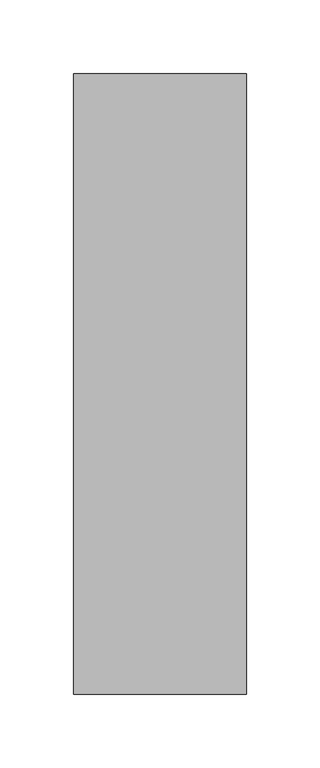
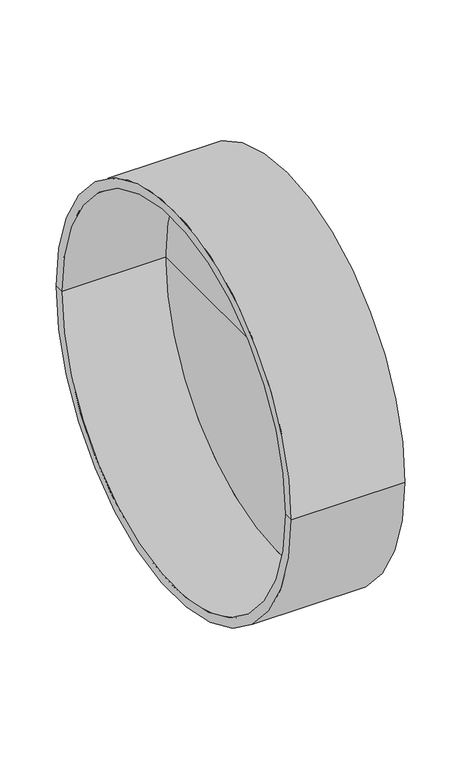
"""IFC4 building model written with IfcOpenShell, lengths in millimetres: pipe fitting geometry, pf_KGK_vicko : pf_KGK_vicko."""

from ifc_helpers import new_model, si_unit, frame, origin, place, context, project, spatial, polyline, circle_curve, source, transform, mapped, element, save
from ifc_brep_helpers import plane_surface, cylinder_surface, revolved_surface, advanced_brep


def pipe_fitting_8a2bdf2f(model_context):
    return source(origin(), model_context, "Body", "AdvancedBrep", [
        advanced_brep(
        [(-107.0, -209.8, 0.0), (-107.0, 209.8, 0.0), (9.8, 209.8, 0.0), (9.8, -209.8, 0.0), (-107.0, -200.0, 0.0), (-107.0, 200.0, 0.0), (0.0, -200.0, 0.0), (0.0, 200.0, 0.0), (0.0, 0.0, 0.0), (9.8, 0.0, 0.0)],
        [
            (0, 1, circle_curve(frame((-107.0, 0.0, 0.0), z_axis=(1.0, 0.0, 0.0), x_axis=(0.0, 1.0, 0.0)), 209.8)),
            (1, 2),
            (2, 3, circle_curve(frame((9.8, 0.0, 0.0), z_axis=(-1.0, 0.0, 0.0), x_axis=(0.0, 1.0, 0.0)), 209.8)),
            (3, 0),
            (1, 0, circle_curve(frame((-107.0, 0.0, 0.0), z_axis=(1.0, 0.0, 0.0), x_axis=(0.0, 1.0, 0.0)), 209.8)),
            (3, 2, circle_curve(frame((9.8, 0.0, 0.0), z_axis=(-1.0, 0.0, 0.0), x_axis=(0.0, 1.0, 0.0)), 209.8)),
            (4, 5, circle_curve(frame((-107.0, 0.0, 0.0), z_axis=(1.0, 0.0, 0.0), x_axis=(0.0, 1.0, 0.0)), 200.0)),
            (5, 1),
            (0, 4),
            (5, 4, circle_curve(frame((-107.0, 0.0, 0.0), z_axis=(1.0, 0.0, 0.0), x_axis=(0.0, 1.0, 0.0)), 200.0)),
            (6, 7, circle_curve(frame((0.0, 0.0, 0.0), z_axis=(1.0, 0.0, 0.0), x_axis=(0.0, 1.0, 0.0)), 200.0)),
            (7, 5),
            (4, 6),
            (7, 6, circle_curve(frame((0.0, 0.0, 0.0), z_axis=(1.0, 0.0, 0.0), x_axis=(0.0, 1.0, 0.0)), 200.0)),
            (8, 7),
            (6, 8),
            (2, 9),
            (9, 3),
        ],
        [
            cylinder_surface(frame((-98.0241529, 0.0, 0.0), z_axis=(-1.0, 0.0, 0.0), x_axis=(0.0, 1.0, 0.0)), 209.8),
            plane_surface(frame((-107.0, 0.0, 0.0), z_axis=(-1.0, 0.0, 0.0), x_axis=(0.0, 1.0, 0.0))),
            revolved_surface(polyline([(-107.0, 200.0, 0.0), (0.0, 200.0, 0.0)]), (-98.0241529, 0.0, 0.0), (-1.0, 0.0, 0.0)),
            plane_surface(frame((0.0, 0.0, 0.0), z_axis=(-1.0, 0.0, 0.0), x_axis=(0.0, 1.0, 0.0))),
            plane_surface(frame((9.8, 0.0, 0.0), z_axis=(1.0, 0.0, 0.0), x_axis=(0.0, 1.0, 0.0))),
        ],
        [
            (0, [[1, 2, 3, 4]]),
            (0, [[5, -4, 6, -2]]),
            (1, [[7, 8, -1, 9]]),
            (1, [[10, -9, -5, -8]]),
            (2, [[11, 12, -7, 13]]),
            (2, [[14, -13, -10, -12]]),
            (3, [[15, -11, 16]]),
            (3, [[-16, -14, -15]]),
            (4, [[-3, 17, 18]]),
            (4, [[-6, -18, -17]]),
        ],
    ),
    ])


if __name__ == "__main__":
    model = new_model("IFC4")
    model_context = context("Model", 3, world=origin())
    ifc_project = project(units=[si_unit("LENGTHUNIT", "METRE", prefix="MILLI")], contexts=[model_context])
    site = spatial("IfcSite", under=ifc_project)
    building = spatial("IfcBuilding", under=site)
    placement = place(None, origin())
    pipe_fitting_shape = pipe_fitting_8a2bdf2f(model_context)
    element("IfcPipeFitting", 1, ObjectType="pf_KGK_vicko : pf_KGK_vicko", at=placement, inside=building, context=model_context, shape_type="MappedRepresentation", body=[
        mapped(pipe_fitting_shape, transform((0.0, 0.0, 0.0), x_axis=(1.0, 0.0, 0.0), y_axis=(0.0, 1.0, 0.0), z_axis=(0.0, 0.0, 1.0))),
    ])
    save(model, "model.ifc")
